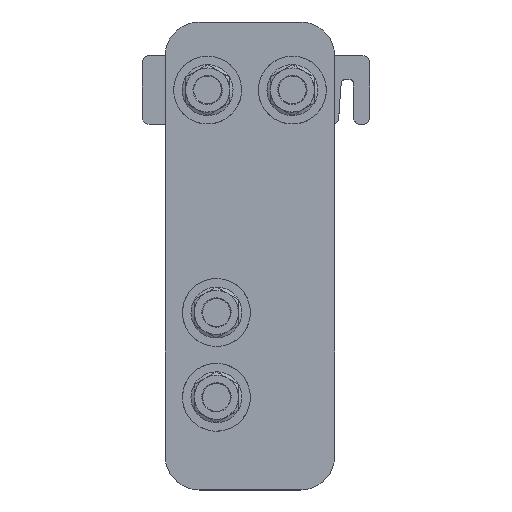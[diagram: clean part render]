
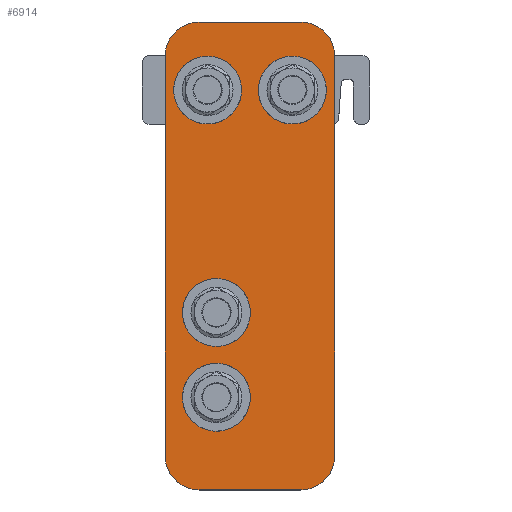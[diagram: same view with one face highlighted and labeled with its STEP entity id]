
A CAD part, top view. The second image highlights one B-rep face of the part: STEP entity #6914.
In plain terms, the highlighted planar face has unit normal (0, 0, 1).
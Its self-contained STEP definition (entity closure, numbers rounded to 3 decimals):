
#53 = VERTEX_POINT ( 'NONE', #6242 ) ;
#629 = AXIS2_PLACEMENT_3D ( 'NONE', #5745, #1740, #6422 ) ;
#772 = VECTOR ( 'NONE', #6201, 1000. ) ;
#927 = CARTESIAN_POINT ( 'NONE',  ( 25., -59., 10. ) ) ;
#1011 = CIRCLE ( 'NONE', #7752, 10. ) ;
#1153 = CARTESIAN_POINT ( 'NONE',  ( -15., 59., 10. ) ) ;
#1550 = CARTESIAN_POINT ( 'NONE',  ( -25., -59., 10. ) ) ;
#1633 = EDGE_CURVE ( 'NONE', #4698, #6183, #2157, .T. ) ;
#1688 = DIRECTION ( 'NONE',  ( 0., -1., 0. ) ) ;
#1740 = DIRECTION ( 'NONE',  ( 0., 0., 1. ) ) ;
#1818 = DIRECTION ( 'NONE',  ( -1., 0., 0. ) ) ;
#1823 = ORIENTED_EDGE ( 'NONE', *, *, #4482, .T. ) ;
#2122 = EDGE_CURVE ( 'NONE', #8366, #6508, #3693, .T. ) ;
#2157 = LINE ( 'NONE', #7292, #5957 ) ;
#2424 = EDGE_LOOP ( 'NONE', ( #7824, #5610, #4076, #3636, #1823, #3136, #6396, #4998 ) ) ;
#2429 = CARTESIAN_POINT ( 'NONE',  ( -15., -59., 10. ) ) ;
#2486 = EDGE_CURVE ( 'NONE', #5107, #3695, #5394, .T. ) ;
#2522 = LINE ( 'NONE', #5517, #772 ) ;
#2639 = CIRCLE ( 'NONE', #629, 10. ) ;
#2681 = EDGE_CURVE ( 'NONE', #8249, #4698, #1011, .T. ) ;
#2882 = CARTESIAN_POINT ( 'NONE',  ( 0., 0., 10. ) ) ;
#2893 = DIRECTION ( 'NONE',  ( 0., 0., 1. ) ) ;
#3102 = DIRECTION ( 'NONE',  ( -1., 0., 0. ) ) ;
#3132 = CARTESIAN_POINT ( 'NONE',  ( 25., 59., 10. ) ) ;
#3136 = ORIENTED_EDGE ( 'NONE', *, *, #2681, .T. ) ;
#3269 = LINE ( 'NONE', #7011, #5030 ) ;
#3556 = DIRECTION ( 'NONE',  ( 1., 0., 0. ) ) ;
#3636 = ORIENTED_EDGE ( 'NONE', *, *, #2122, .T. ) ;
#3693 = CIRCLE ( 'NONE', #4762, 10. ) ;
#3695 = VERTEX_POINT ( 'NONE', #3132 ) ;
#4076 = ORIENTED_EDGE ( 'NONE', *, *, #8603, .T. ) ;
#4192 = PLANE ( 'NONE',  #8543 ) ;
#4212 = VECTOR ( 'NONE', #6266, 1000. ) ;
#4242 = CARTESIAN_POINT ( 'NONE',  ( 25., 0., 10. ) ) ;
#4482 = EDGE_CURVE ( 'NONE', #6508, #8249, #3269, .T. ) ;
#4577 = DIRECTION ( 'NONE',  ( 1., 0., 0. ) ) ;
#4698 = VERTEX_POINT ( 'NONE', #7180 ) ;
#4762 = AXIS2_PLACEMENT_3D ( 'NONE', #1153, #5828, #1818 ) ;
#4998 = ORIENTED_EDGE ( 'NONE', *, *, #7577, .T. ) ;
#5030 = VECTOR ( 'NONE', #1688, 1000. ) ;
#5107 = VERTEX_POINT ( 'NONE', #927 ) ;
#5246 = AXIS2_PLACEMENT_3D ( 'NONE', #6920, #2893, #7581 ) ;
#5394 = LINE ( 'NONE', #4242, #4212 ) ;
#5517 = CARTESIAN_POINT ( 'NONE',  ( 0., 69., 10. ) ) ;
#5610 = ORIENTED_EDGE ( 'NONE', *, *, #8063, .T. ) ;
#5745 = CARTESIAN_POINT ( 'NONE',  ( 15., 59., 10. ) ) ;
#5828 = DIRECTION ( 'NONE',  ( 0., 0., 1. ) ) ;
#5957 = VECTOR ( 'NONE', #4577, 1000. ) ;
#6183 = VERTEX_POINT ( 'NONE', #6828 ) ;
#6201 = DIRECTION ( 'NONE',  ( -1., 0., 0. ) ) ;
#6242 = CARTESIAN_POINT ( 'NONE',  ( 15., 69., 10. ) ) ;
#6266 = DIRECTION ( 'NONE',  ( 0., 1., 0. ) ) ;
#6396 = ORIENTED_EDGE ( 'NONE', *, *, #1633, .T. ) ;
#6422 = DIRECTION ( 'NONE',  ( -1., 0., 0. ) ) ;
#6508 = VERTEX_POINT ( 'NONE', #6661 ) ;
#6641 = FACE_OUTER_BOUND ( 'NONE', #2424, .T. ) ;
#6661 = CARTESIAN_POINT ( 'NONE',  ( -25., 59., 10. ) ) ;
#6720 = CARTESIAN_POINT ( 'NONE',  ( -15., 69., 10. ) ) ;
#6828 = CARTESIAN_POINT ( 'NONE',  ( 15., -69., 10. ) ) ;
#6914 = ADVANCED_FACE ( 'NONE', ( #6641 ), #4192, .T. ) ;
#6920 = CARTESIAN_POINT ( 'NONE',  ( 15., -59., 10. ) ) ;
#7011 = CARTESIAN_POINT ( 'NONE',  ( -25., 0., 10. ) ) ;
#7129 = DIRECTION ( 'NONE',  ( 0., 0., 1. ) ) ;
#7180 = CARTESIAN_POINT ( 'NONE',  ( -15., -69., 10. ) ) ;
#7292 = CARTESIAN_POINT ( 'NONE',  ( 0., -69., 10. ) ) ;
#7572 = DIRECTION ( 'NONE',  ( 0., 0., 1. ) ) ;
#7577 = EDGE_CURVE ( 'NONE', #6183, #5107, #7657, .T. ) ;
#7581 = DIRECTION ( 'NONE',  ( -1., 0., 0. ) ) ;
#7657 = CIRCLE ( 'NONE', #5246, 10. ) ;
#7752 = AXIS2_PLACEMENT_3D ( 'NONE', #2429, #7129, #3102 ) ;
#7824 = ORIENTED_EDGE ( 'NONE', *, *, #2486, .T. ) ;
#8063 = EDGE_CURVE ( 'NONE', #3695, #53, #2639, .T. ) ;
#8249 = VERTEX_POINT ( 'NONE', #1550 ) ;
#8366 = VERTEX_POINT ( 'NONE', #6720 ) ;
#8543 = AXIS2_PLACEMENT_3D ( 'NONE', #2882, #7572, #3556 ) ;
#8603 = EDGE_CURVE ( 'NONE', #53, #8366, #2522, .T. ) ;
